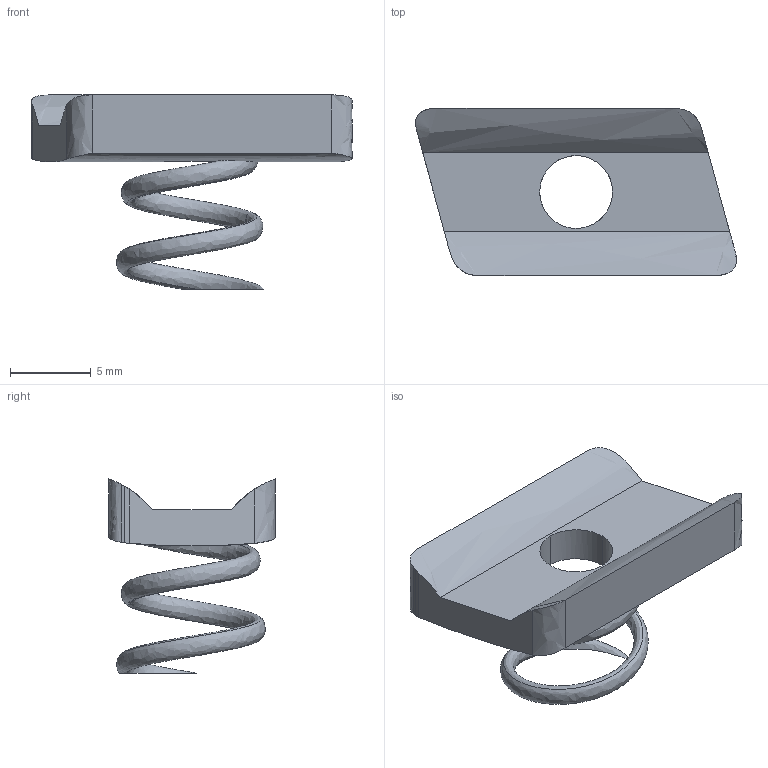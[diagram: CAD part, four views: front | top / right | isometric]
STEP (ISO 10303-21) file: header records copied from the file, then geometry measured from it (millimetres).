
FILE_DESCRIPTION(('TurboCAD Mac Pro'),'Build 980');
FILE_NAME('P7006-0836.stp',' ',(''),(''),'ACIS Interop','IMSI','TurboCAD Mac Pro BY IMSI, INCORPORATED');
FILE_SCHEMA(('automotive_design'));
Length unit declared in the file: inch
Products named in the file (1): 1
Bounding box: 19.82 x 10.31 x 12 mm (x, y, z)
Volume: 495.3 mm3; surface area: 722.5 mm2
Topology: 1 solids, 1 shells, 27 faces, 75 edges, 49 vertices
Faces by surface type: bspline 15, plane 12
Entity records: 3043 total; most frequent: CARTESIAN_POINT 2239, ORIENTED_EDGE 150, EDGE_CURVE 75, DIRECTION 57, VERTEX_POINT 49, B_SPLINE_CURVE_WITH_KNOTS 44, LINE 31, VECTOR 31
